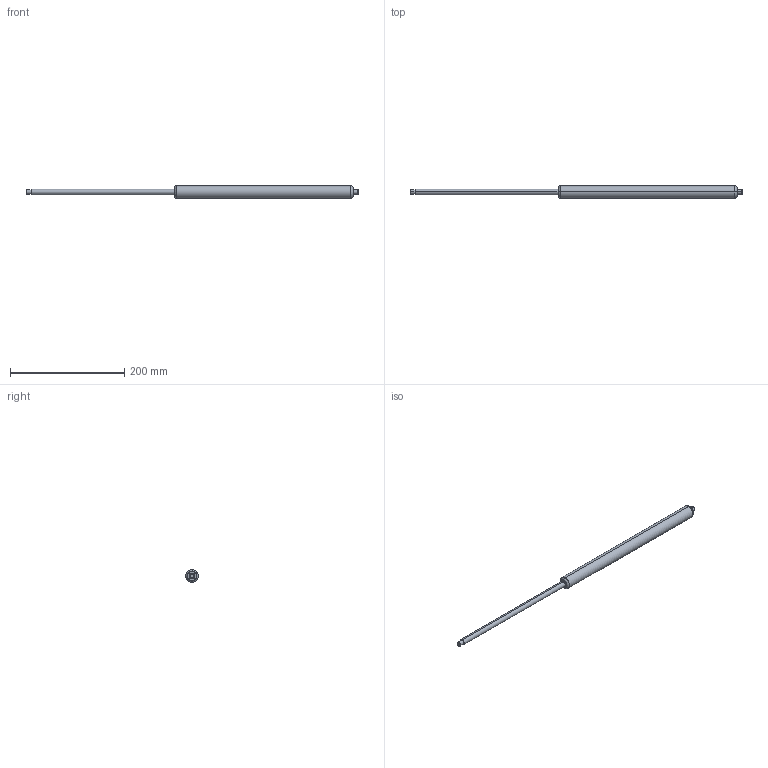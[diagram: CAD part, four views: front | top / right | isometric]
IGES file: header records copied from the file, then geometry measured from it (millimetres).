
Start section: SolidWorks IGES file using analytic representation for surfaces
Bounding box: 581 x 22 x 22 mm (x, y, z)
Surface area: 30480 mm2 (no closed solid volume)
Topology: 0 solids, 0 shells, 25 faces, 336 edges, 336 vertices
Faces by surface type: revolution 16, bspline 9
